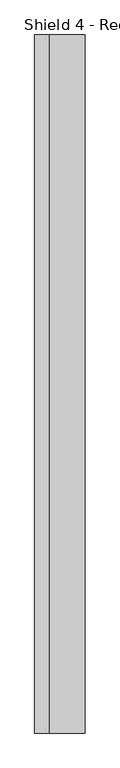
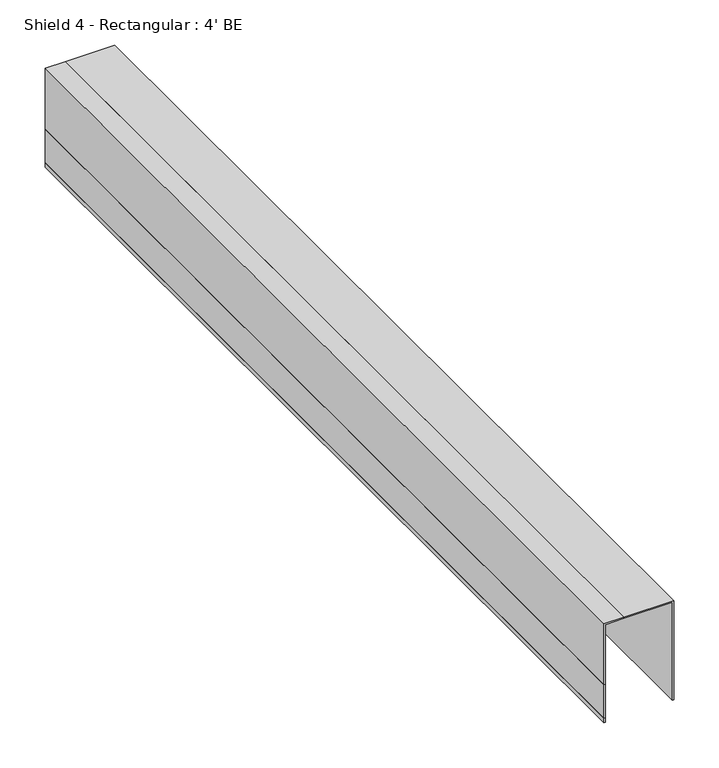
"""IFC4 building model written with IfcOpenShell, lengths in millimetres: proxy geometry, Shield 4 - Rectangular : 4' BE."""

from ifc_helpers import new_model, si_unit, frame, origin, origin_with_axes, place, context, project, spatial, polyline, outline, extrude, source, transform, mapped, element, save


def shield_4_rectangular_4_be_6b1e682a(model_context):
    return source(origin(), model_context, "Body", "SweptSolid", [
        extrude(outline(polyline([(-42.8625, -617.5375), (-44.45, -617.5375), (-44.45, 617.5375), (-42.8625, 617.5375), (-42.8625, -617.5375)])), frame((0.0, 0.0, 6.35), z_axis=(0.0, 0.0, 1.0), x_axis=(1.0, 0.0, 0.0)), (0.0, 0.0, 1.0), 44.6038416),
        extrude(outline(polyline([(-42.8625, -617.5375), (-44.45, -617.5375), (-44.45, 617.5375), (-42.8625, 617.5375), (-42.8625, -617.5375)])), origin_with_axes(), (0.0, 0.0, 1.0), 6.35),
        extrude(outline(polyline([(50.9538416, -44.45), (50.9538416, -42.8625), (131.7625, -42.8625), (131.7625, -19.05), (133.35, -19.05), (133.35, -44.45), (50.9538416, -44.45)])), frame((0.0, -617.5375, 0.0), z_axis=(0.0, 1.0, 0.0), x_axis=(0.0, 0.0, 1.0)), (0.0, 0.0, 1.0), 1235.075),
        extrude(outline(polyline([(0.0, 44.45), (133.35, 44.45), (133.35, -19.05), (131.7625, -19.05), (131.7625, 42.8625), (0.0, 42.8625), (0.0, 44.45)])), frame((0.0, -617.5375, 0.0), z_axis=(0.0, 1.0, 0.0), x_axis=(0.0, 0.0, 1.0)), (0.0, 0.0, 1.0), 1235.075),
    ])


if __name__ == "__main__":
    model = new_model("IFC4")
    model_context = context("Model", 3, world=origin())
    ifc_project = project(units=[si_unit("LENGTHUNIT", "METRE", prefix="MILLI")], contexts=[model_context])
    site = spatial("IfcSite", under=ifc_project)
    building = spatial("IfcBuilding", under=site)
    placement = place(None, origin())
    shield_4_rectangular_4_be_shape = shield_4_rectangular_4_be_6b1e682a(model_context)
    element("IfcBuildingElementProxy", 1, Name="Shield 4 - Rectangular : 4' BE", ObjectType="Shield 4 - Rectangular : 4' BE", at=placement, inside=building, context=model_context, shape_type="MappedRepresentation", body=[
        mapped(shield_4_rectangular_4_be_shape, transform((0.0, 0.0, 0.0), x_axis=(1.0, 0.0, 0.0), y_axis=(0.0, 1.0, 0.0), z_axis=(0.0, 0.0, 1.0))),
    ])
    save(model, "model.ifc")
